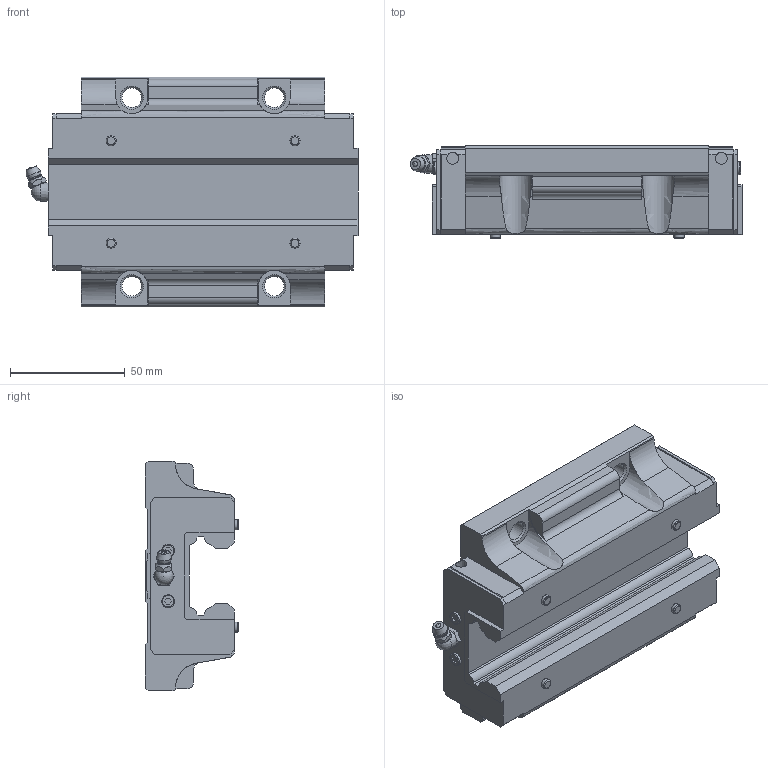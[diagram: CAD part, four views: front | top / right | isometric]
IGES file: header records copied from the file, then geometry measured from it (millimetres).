
Start section: Data from Parasolid IGES Translator 26.0.171, Copyright(c) 2006 Siemens PLM Software. All Rights Reserved.
Global section: file name: HSR35LC1SS(GK) BLOCK(1B-M6F).igs; native system: By Siemens PLM Incorporated; preprocessor: XPlus GENERIC/IGES 26.0.171; author: Noname; organization: Noname; date: 20240521.045852; units: millimetre
Bounding box: 144.4 x 40.5 x 100 mm (x, y, z)
Surface area: 48451 mm2 (no closed solid volume)
Topology: 0 solids, 0 shells, 269 faces, 1438 edges, 1376 vertices
Faces by surface type: extrusion 184, revolution 85
